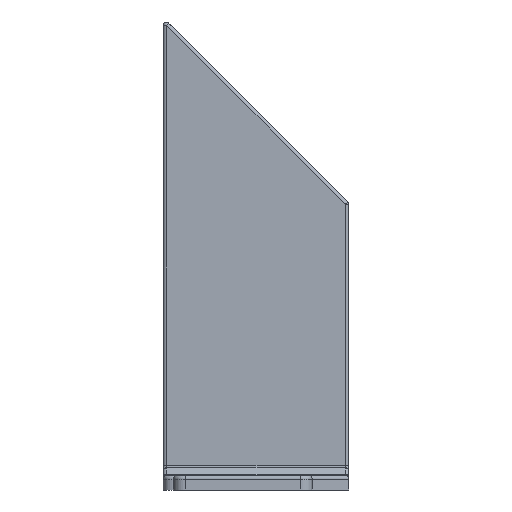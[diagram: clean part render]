
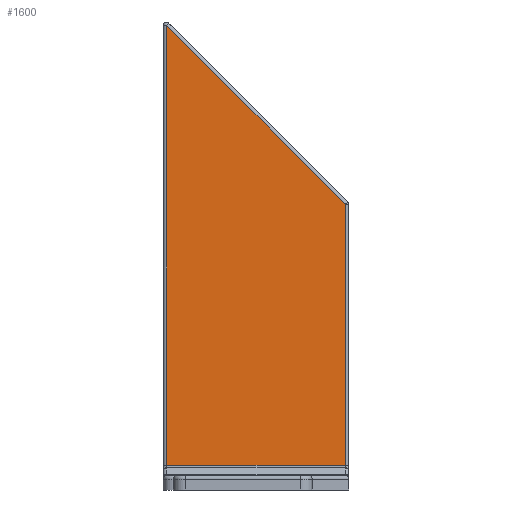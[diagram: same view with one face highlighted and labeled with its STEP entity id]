
A CAD part, left-side view. The second image highlights one B-rep face of the part: STEP entity #1600.
In plain terms, the highlighted planar face has unit normal (-1, 0, 0).
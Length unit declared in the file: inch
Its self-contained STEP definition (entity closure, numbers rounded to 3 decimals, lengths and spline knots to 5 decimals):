
#162=LINE('',#2838,#272);
#164=LINE('',#2869,#274);
#167=LINE('',#2873,#277);
#176=LINE('',#2901,#286);
#272=VECTOR('',#2135,0.3937);
#274=VECTOR('',#2175,0.3937);
#277=VECTOR('',#2180,0.3937);
#286=VECTOR('',#2217,0.3937);
#345=PLANE('',#1824);
#436=FACE_OUTER_BOUND('',#539,.T.);
#539=EDGE_LOOP('',(#1396,#1397,#1398,#1399));
#755=VERTEX_POINT('',#2805);
#758=VERTEX_POINT('',#2828);
#762=VERTEX_POINT('',#2840);
#770=VERTEX_POINT('',#2863);
#933=EDGE_CURVE('',#758,#755,#162,.T.);
#948=EDGE_CURVE('',#762,#770,#164,.T.);
#951=EDGE_CURVE('',#770,#758,#167,.T.);
#966=EDGE_CURVE('',#755,#762,#176,.T.);
#1396=ORIENTED_EDGE('',*,*,#948,.F.);
#1397=ORIENTED_EDGE('',*,*,#966,.F.);
#1398=ORIENTED_EDGE('',*,*,#933,.F.);
#1399=ORIENTED_EDGE('',*,*,#951,.F.);
#1600=ADVANCED_FACE('',(#436),#345,.T.);
#1824=AXIS2_PLACEMENT_3D('',#3005,#2331,#2332);
#2135=DIRECTION('',(0.,0.,1.));
#2175=DIRECTION('',(0.,0.,-1.));
#2180=DIRECTION('',(0.,1.,0.));
#2217=DIRECTION('',(0.,-0.707,-0.707));
#2331=DIRECTION('center_axis',(-1.,0.,0.));
#2332=DIRECTION('ref_axis',(0.,-1.,0.));
#2805=CARTESIAN_POINT('',(-3.75,18.9,8.03515));
#2828=CARTESIAN_POINT('',(-3.75,18.9,0.42485));
#2838=CARTESIAN_POINT('',(-3.75,18.9,0.));
#2840=CARTESIAN_POINT('',(-3.75,15.805,4.94015));
#2863=CARTESIAN_POINT('',(-3.75,15.805,0.42485));
#2869=CARTESIAN_POINT('',(-3.75,15.805,0.));
#2873=CARTESIAN_POINT('',(-3.75,18.55812,0.42485));
#2901=CARTESIAN_POINT('',(-3.75,16.36273,5.49788));
#3005=CARTESIAN_POINT('Origin',(-3.75,18.96,0.));
